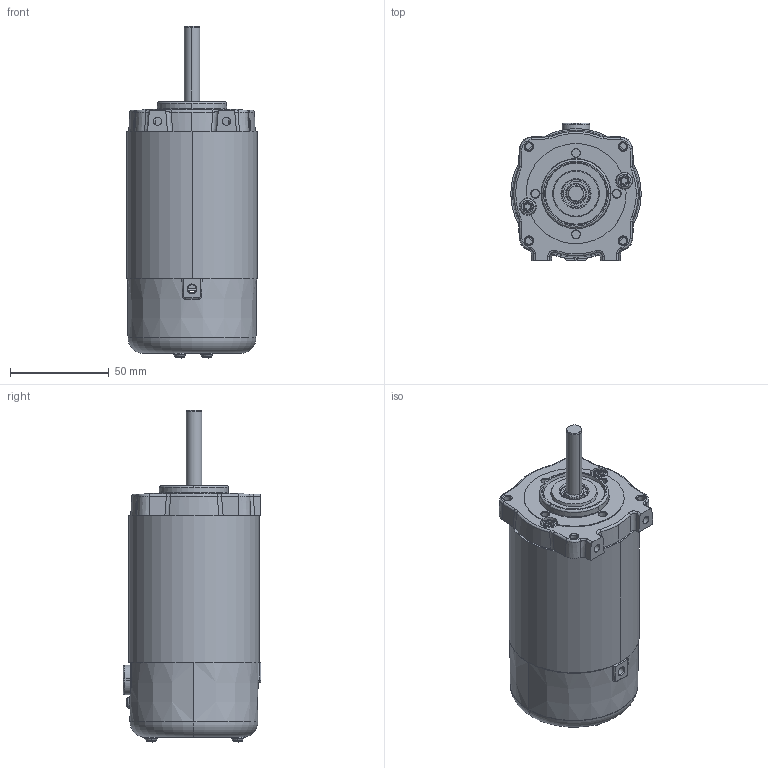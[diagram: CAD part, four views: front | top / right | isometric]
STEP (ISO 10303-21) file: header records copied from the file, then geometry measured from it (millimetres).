
FILE_DESCRIPTION (( 'STEP AP214' ), '1' );
FILE_NAME ('PM11.STEP', '2021-07-05T08:46:00', ( '' ), ( '' ), 'SwSTEP 2.0', 'SolidWorks 2020', '' );
FILE_SCHEMA (( 'AUTOMOTIVE_DESIGN' ));
Length unit declared in the file: millimetre
Products named in the file (1): PM11
Bounding box: 66.19 x 70 x 168.46 mm (x, y, z)
Surface area: 47145.3 mm2 (no closed solid volume)
Topology: 0 solids, 20 shells, 407 faces, 1211 edges, 813 vertices
Faces by surface type: cone 165, plane 88, cylinder 71, bspline 57, torus 24, sphere 2
Entity records: 22068 total; most frequent: CARTESIAN_POINT 7378, ORIENTED_EDGE 2140, DIRECTION 2031, EDGE_CURVE 1192, AXIS2_PLACEMENT_3D 864, VERTEX_POINT 813, CIRCLE 513, EDGE_LOOP 450
